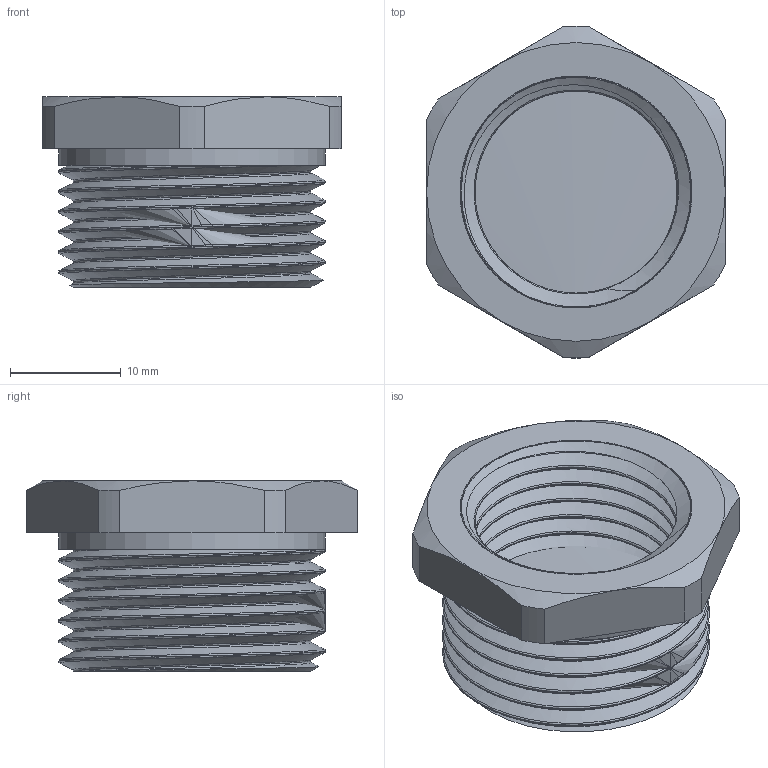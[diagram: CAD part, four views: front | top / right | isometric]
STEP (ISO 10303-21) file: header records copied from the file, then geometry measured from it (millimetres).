
FILE_DESCRIPTION(/* description */ (''),/* implementation_level */ '2;1');
FILE_NAME(/* name */ 'C:\Users\Doom\Desktop\Фадотех\Резьба\PF05 18.03.2020\PF05 18.03.2020.stp',/* time_stamp */ '2022-01-14T00:53:49+02:00',/* author */ ('Doom'),/* organization */ (''),/* preprocessor_version */ 'ST-DEVELOPER v18',/* originating_system */ 'Autodesk Inventor 2020',/* authorisation */ '');
FILE_SCHEMA (('AUTOMOTIVE_DESIGN { 1 0 10303 214 3 1 1 }'));
Length unit declared in the file: millimetre
Products named in the file (1): PF04 18.03.2020
Bounding box: 27 x 29.99 x 17.2 mm (x, y, z)
Volume: 3970.7 mm3; surface area: 8627 mm2
Topology: 3 solids, 3 shells, 64 faces, 171 edges, 113 vertices
Faces by surface type: cylinder 30, plane 14, bspline 12, cone 8
Full cylindrical faces by diameter (mm): 18.26 x8, 20.95 x2, 21.42 x2, 24.11 x8
Entity records: 10655 total; most frequent: CARTESIAN_POINT 9197, ORIENTED_EDGE 334, DIRECTION 232, EDGE_CURVE 167, VERTEX_POINT 111, AXIS2_PLACEMENT_3D 96, B_SPLINE_CURVE_WITH_KNOTS 72, EDGE_LOOP 72
